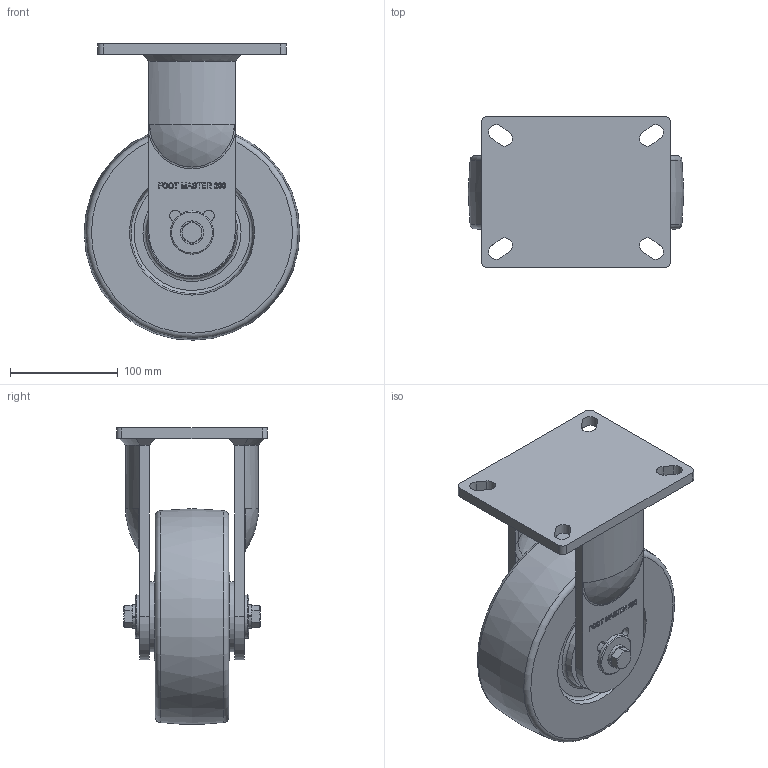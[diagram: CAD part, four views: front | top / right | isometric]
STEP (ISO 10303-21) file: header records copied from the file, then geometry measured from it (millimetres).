
FILE_DESCRIPTION(/* description */ (''),/* implementation_level */ '2;1');
FILE_NAME(/* name */ 'Y:\1.기술연구소\2.연구개발 진행중\133.고하중캐스터 브레이크 타입 변경건_2025.11.03\1.도면\4.홈페이지용 도면\01. 3D\GXT-200 SERIES\GXT-200-STEP\GXT-200-ARF-HUD.stp',/* time_stamp */ '2026-07-21T18:32:12+09:00',/* author */ ('장용하'),/* organization */ (''),/* preprocessor_version */ 'ST-DEVELOPER v18.1',/* originating_system */ 'Autodesk Inventor 2021',/* authorisation */ '');
FILE_SCHEMA (('CONFIG_CONTROL_DESIGN'));
Length unit declared in the file: millimetre
Products named in the file (1): GXT-200-ARF-HUD
Bounding box: 199.99 x 140 x 274.8 mm (x, y, z)
Volume: 2625238 mm3; surface area: 225296.3 mm2
Topology: 1 solids, 1 shells, 597 faces, 1617 edges, 1070 vertices
Faces by surface type: plane 280, bspline 233, cylinder 48, cone 18, torus 14, sphere 4
Full cylindrical faces by diameter (mm): 12 x2, 40 x2, 65 x2
Entity records: 19625 total; most frequent: CARTESIAN_POINT 6031, ORIENTED_EDGE 3234, DIRECTION 2044, EDGE_CURVE 1617, VERTEX_POINT 1070, LINE 916, VECTOR 916, EDGE_LOOP 659
